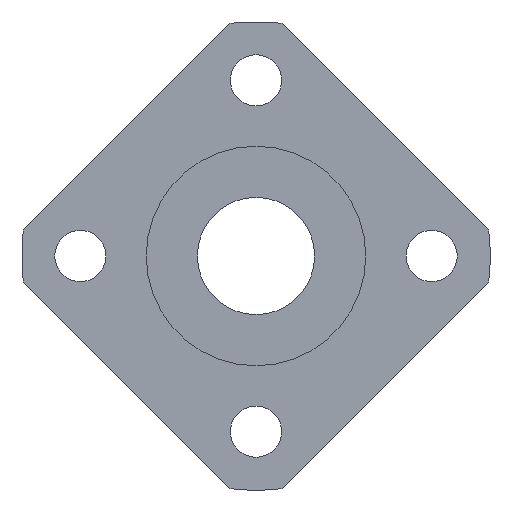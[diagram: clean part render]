
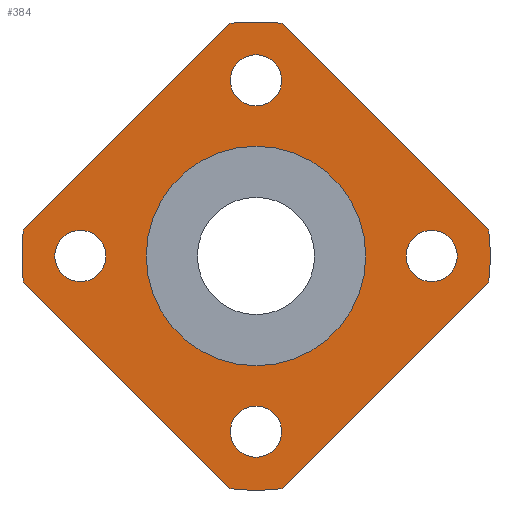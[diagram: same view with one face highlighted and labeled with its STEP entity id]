
A CAD part, left-side view. The second image highlights one B-rep face of the part: STEP entity #384.
In plain terms, the highlighted planar face has unit normal (-1, 0, 0).
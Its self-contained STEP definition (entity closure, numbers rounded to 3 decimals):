
#26=PLANE('',#445);
#41=LINE('',#664,#57);
#42=LINE('',#665,#58);
#43=LINE('',#666,#59);
#44=LINE('',#670,#60);
#57=VECTOR('',#546,1000.);
#58=VECTOR('',#547,1000.);
#59=VECTOR('',#548,1000.);
#60=VECTOR('',#551,1000.);
#102=ORIENTED_EDGE('',*,*,#184,.T.);
#103=ORIENTED_EDGE('',*,*,#155,.F.);
#104=ORIENTED_EDGE('',*,*,#185,.T.);
#105=ORIENTED_EDGE('',*,*,#159,.F.);
#106=ORIENTED_EDGE('',*,*,#186,.T.);
#107=ORIENTED_EDGE('',*,*,#187,.F.);
#108=ORIENTED_EDGE('',*,*,#188,.T.);
#109=ORIENTED_EDGE('',*,*,#153,.F.);
#110=ORIENTED_EDGE('',*,*,#189,.T.);
#111=ORIENTED_EDGE('',*,*,#190,.T.);
#112=ORIENTED_EDGE('',*,*,#191,.T.);
#113=ORIENTED_EDGE('',*,*,#192,.T.);
#114=ORIENTED_EDGE('',*,*,#172,.T.);
#153=EDGE_CURVE('',#197,#198,#232,.T.);
#155=EDGE_CURVE('',#199,#200,#233,.T.);
#159=EDGE_CURVE('',#203,#204,#235,.T.);
#172=EDGE_CURVE('',#216,#216,#246,.T.);
#184=EDGE_CURVE('',#197,#200,#41,.T.);
#185=EDGE_CURVE('',#199,#204,#42,.T.);
#186=EDGE_CURVE('',#203,#225,#43,.T.);
#187=EDGE_CURVE('',#226,#225,#254,.T.);
#188=EDGE_CURVE('',#226,#198,#44,.T.);
#189=EDGE_CURVE('',#227,#227,#255,.T.);
#190=EDGE_CURVE('',#228,#228,#256,.T.);
#191=EDGE_CURVE('',#229,#229,#257,.T.);
#192=EDGE_CURVE('',#230,#230,#258,.T.);
#197=VERTEX_POINT('',#594);
#198=VERTEX_POINT('',#596);
#199=VERTEX_POINT('',#600);
#200=VERTEX_POINT('',#601);
#203=VERTEX_POINT('',#609);
#204=VERTEX_POINT('',#610);
#216=VERTEX_POINT('',#640);
#225=VERTEX_POINT('',#667);
#226=VERTEX_POINT('',#669);
#227=VERTEX_POINT('',#672);
#228=VERTEX_POINT('',#674);
#229=VERTEX_POINT('',#676);
#230=VERTEX_POINT('',#678);
#232=CIRCLE('',#413,16.);
#233=CIRCLE('',#415,16.);
#235=CIRCLE('',#418,16.);
#246=CIRCLE('',#434,7.5);
#254=CIRCLE('',#446,16.);
#255=CIRCLE('',#447,1.75);
#256=CIRCLE('',#448,1.75);
#257=CIRCLE('',#449,1.75);
#258=CIRCLE('',#450,1.75);
#282=EDGE_LOOP('',(#102,#103,#104,#105,#106,#107,#108,#109));
#283=EDGE_LOOP('',(#110));
#284=EDGE_LOOP('',(#111));
#285=EDGE_LOOP('',(#112));
#286=EDGE_LOOP('',(#113));
#287=EDGE_LOOP('',(#114));
#332=FACE_BOUND('',#282,.T.);
#333=FACE_BOUND('',#283,.T.);
#334=FACE_BOUND('',#284,.T.);
#335=FACE_BOUND('',#285,.T.);
#336=FACE_BOUND('',#286,.T.);
#337=FACE_BOUND('',#287,.T.);
#384=ADVANCED_FACE('',(#332,#333,#334,#335,#336,#337),#26,.F.);
#413=AXIS2_PLACEMENT_3D('',#595,#471,#472);
#415=AXIS2_PLACEMENT_3D('',#599,#476,#477);
#418=AXIS2_PLACEMENT_3D('',#608,#484,#485);
#434=AXIS2_PLACEMENT_3D('',#639,#518,#519);
#445=AXIS2_PLACEMENT_3D('',#663,#544,#545);
#446=AXIS2_PLACEMENT_3D('',#668,#549,#550);
#447=AXIS2_PLACEMENT_3D('',#671,#552,#553);
#448=AXIS2_PLACEMENT_3D('',#673,#554,#555);
#449=AXIS2_PLACEMENT_3D('',#675,#556,#557);
#450=AXIS2_PLACEMENT_3D('',#677,#558,#559);
#471=DIRECTION('',(1.,0.,0.));
#472=DIRECTION('',(0.,0.,-1.));
#476=DIRECTION('',(1.,0.,0.));
#477=DIRECTION('',(0.,0.,-1.));
#484=DIRECTION('',(1.,0.,0.));
#485=DIRECTION('',(0.,0.,-1.));
#518=DIRECTION('',(1.,0.,0.));
#519=DIRECTION('',(0.,0.,-1.));
#544=DIRECTION('',(1.,0.,0.));
#545=DIRECTION('',(0.,0.,-1.));
#546=DIRECTION('',(0.,0.707,0.707));
#547=DIRECTION('',(0.,0.707,-0.707));
#548=DIRECTION('',(0.,-0.707,-0.707));
#549=DIRECTION('',(1.,0.,0.));
#550=DIRECTION('',(0.,0.,-1.));
#551=DIRECTION('',(0.,-0.707,0.707));
#552=DIRECTION('',(1.,0.,0.));
#553=DIRECTION('',(0.,0.,-1.));
#554=DIRECTION('',(1.,0.,0.));
#555=DIRECTION('',(0.,0.,-1.));
#556=DIRECTION('',(1.,0.,0.));
#557=DIRECTION('',(0.,0.,-1.));
#558=DIRECTION('',(1.,0.,0.));
#559=DIRECTION('',(0.,0.,-1.));
#594=CARTESIAN_POINT('',(17.5,-15.901,1.777));
#595=CARTESIAN_POINT('',(17.5,0.,0.));
#596=CARTESIAN_POINT('',(17.5,-15.901,-1.777));
#599=CARTESIAN_POINT('',(17.5,0.,0.));
#600=CARTESIAN_POINT('',(17.5,1.777,15.901));
#601=CARTESIAN_POINT('',(17.5,-1.777,15.901));
#608=CARTESIAN_POINT('',(17.5,0.,0.));
#609=CARTESIAN_POINT('',(17.5,15.901,-1.777));
#610=CARTESIAN_POINT('',(17.5,15.901,1.777));
#639=CARTESIAN_POINT('',(17.5,0.,0.));
#640=CARTESIAN_POINT('',(17.5,0.,-7.5));
#663=CARTESIAN_POINT('',(17.5,0.,0.));
#664=CARTESIAN_POINT('',(17.5,0.,17.678));
#665=CARTESIAN_POINT('',(17.5,17.678,0.));
#666=CARTESIAN_POINT('',(17.5,0.,-17.678));
#667=CARTESIAN_POINT('',(17.5,1.777,-15.901));
#668=CARTESIAN_POINT('',(17.5,0.,0.));
#669=CARTESIAN_POINT('',(17.5,-1.777,-15.901));
#670=CARTESIAN_POINT('',(17.5,-17.678,0.));
#671=CARTESIAN_POINT('',(17.5,0.,-12.));
#672=CARTESIAN_POINT('',(17.5,0.,-13.75));
#673=CARTESIAN_POINT('',(17.5,-12.,0.));
#674=CARTESIAN_POINT('',(17.5,-12.,-1.75));
#675=CARTESIAN_POINT('',(17.5,0.,12.));
#676=CARTESIAN_POINT('',(17.5,0.,10.25));
#677=CARTESIAN_POINT('',(17.5,12.,0.));
#678=CARTESIAN_POINT('',(17.5,12.,-1.75));
